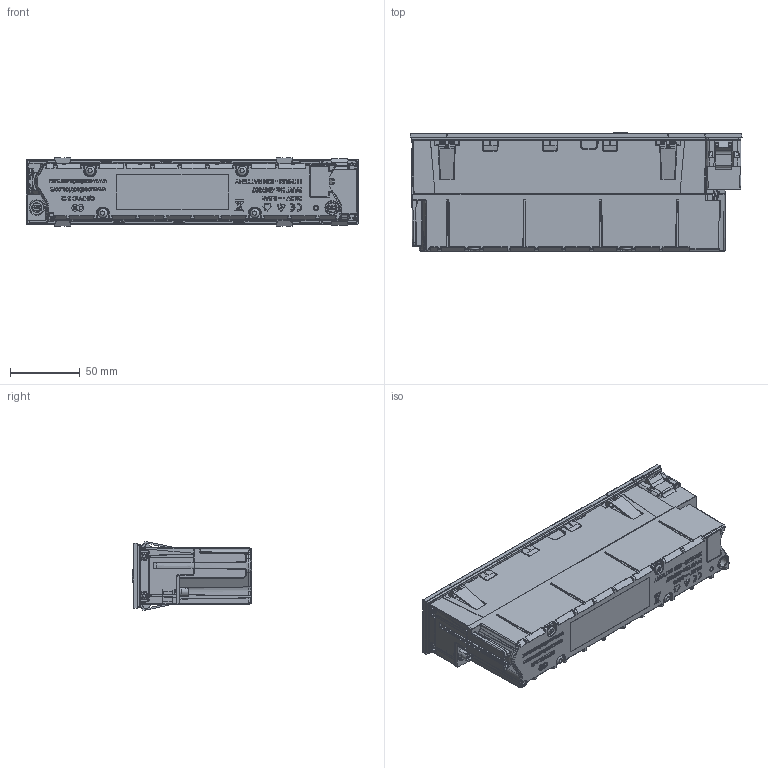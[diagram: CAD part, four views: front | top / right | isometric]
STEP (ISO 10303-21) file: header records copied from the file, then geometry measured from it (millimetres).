
FILE_DESCRIPTION(/* description */ (''),/* implementation_level */ '2;1');
FILE_NAME(/* name */ '/Users/zoelowery/Desktop/QIKPAC v2.step',/* time_stamp */ '2021-11-01T11:05:54+00:00',/* author */ (''),/* organization */ (''),/* preprocessor_version */ 'ST-DEVELOPER v18.1',/* originating_system */ 'Autodesk Translation Framework v10.10.0.1391',/* authorisation */ '');
FILE_SCHEMA (('AUTOMOTIVE_DESIGN { 1 0 10303 214 3 1 1 }'));
Products named in the file (5): QIKPAC; QIKFIT-Battery-Module 1; QIKFIT TUF005 1; Component1; Component2
Assembly tree (4 placements, depth 3):
  QIKPAC
    QIKFIT-Battery-Module 1
    QIKFIT TUF005 1
      Component1
      Component2
Bounding box: 238.45 x 85.48 x 48.99 mm (x, y, z)
Volume: 760692 mm3; surface area: 95664.1 mm2
Topology: 3 solids, 12 shells, 7131 faces, 18196 edges, 11201 vertices
Faces by surface type: plane 2874, cylinder 2136, bspline 1688, sphere 181, torus 162, cone 90
Full cylindrical faces by diameter (mm): 0.445 x1, 0.766 x1, 1 x2, 1.05 x4, 1.8 x4, 2 x8, 2.1 x4, 2.8 x1, 5.5 x4, 6.8 x4, 7 x2, 7.2 x1, 7.3 x2, 9.3 x2, 10.07 x1
Entity records: 289086 total; most frequent: CARTESIAN_POINT 116170, ORIENTED_EDGE 36080, DIRECTION 32667, EDGE_CURVE 18040, VERTEX_POINT 11202, AXIS2_PLACEMENT_3D 11177, LINE 10313, VECTOR 10313
